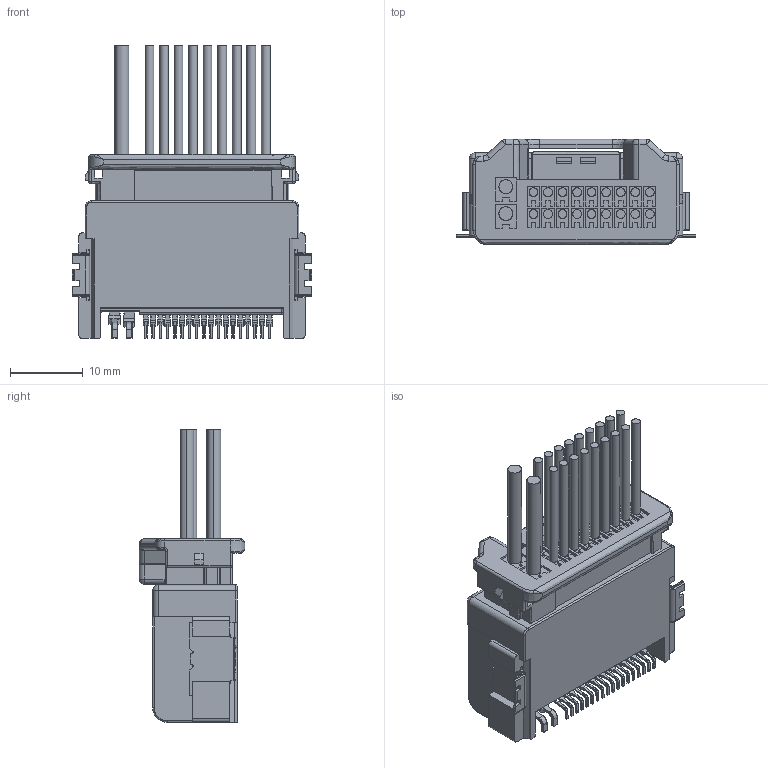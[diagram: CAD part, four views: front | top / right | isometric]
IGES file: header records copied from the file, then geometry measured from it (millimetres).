
Start section: SolidWorks IGES file using analytic representation for surfaces
Bounding box: 32.95 x 14.5 x 40.25 mm (x, y, z)
Surface area: 4827 mm2 (no closed solid volume)
Topology: 0 solids, 0 shells, 1693 faces, 11181 edges, 11157 vertices
Faces by surface type: bspline 1215, revolution 478
